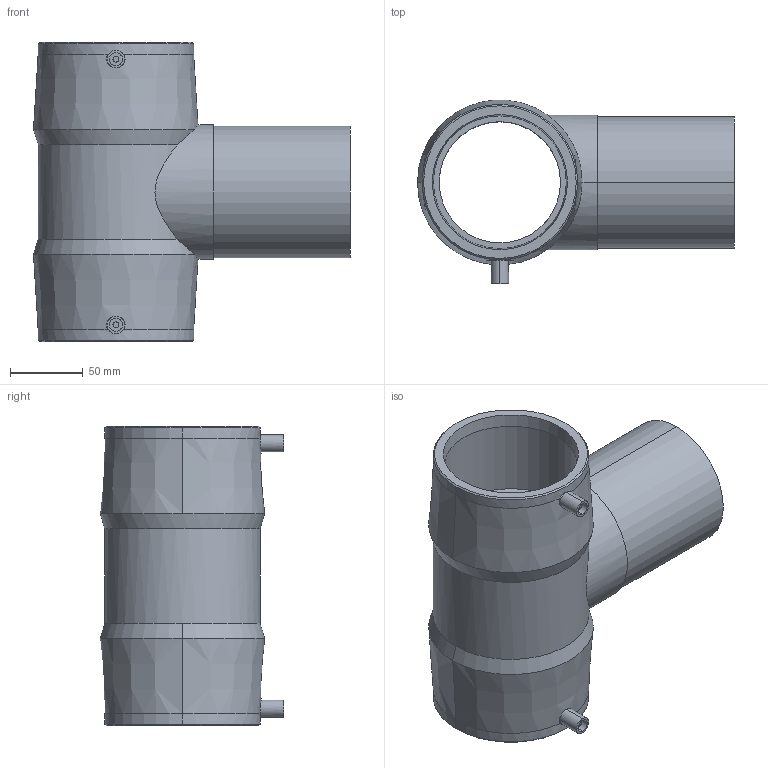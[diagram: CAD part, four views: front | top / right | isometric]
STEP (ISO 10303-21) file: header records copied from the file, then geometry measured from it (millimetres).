
FILE_DESCRIPTION (( 'STEP AP203' ), '1' );
FILE_NAME ('KP_28-90.step', '2011-08-08T11:39:33', ( '' ), ( '' ), 'SwSTEP 2.0', 'SolidWorks 2011', '' );
FILE_SCHEMA (( 'CONFIG_CONTROL_DESIGN' ));
Length unit declared in the file: millimetre
Products named in the file (1): KP_28-90
Bounding box: 217.26 x 125.72 x 205 mm (x, y, z)
Volume: 847824.8 mm3; surface area: 188795.2 mm2
Topology: 1 solids, 1 shells, 59 faces, 135 edges, 84 vertices
Faces by surface type: cylinder 29, cone 18, plane 12
Entity records: 2184 total; most frequent: CARTESIAN_POINT 750, DIRECTION 301, ORIENTED_EDGE 270, EDGE_CURVE 135, AXIS2_PLACEMENT_3D 129, VERTEX_POINT 84, CIRCLE 69, EDGE_LOOP 69
